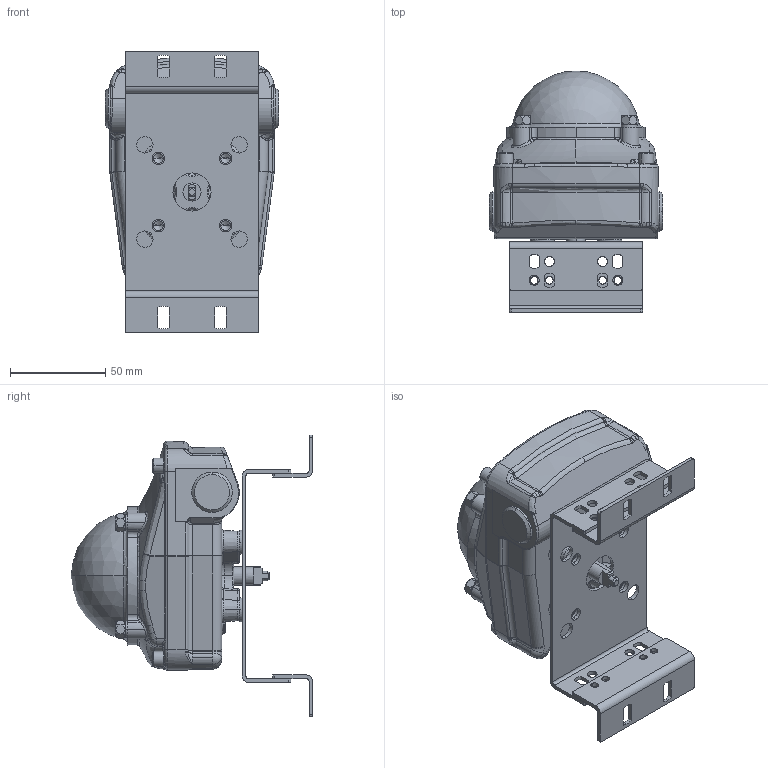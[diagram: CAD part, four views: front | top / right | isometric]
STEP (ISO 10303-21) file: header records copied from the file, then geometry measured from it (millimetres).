
FILE_DESCRIPTION (( 'STEP AP214' ), '1' );
FILE_NAME ('S5A_with_AdjustableBracket_30X130.STEP', '2018-10-12T12:57:55', ( '' ), ( '' ), 'SwSTEP 2.0', 'SolidWorks 2018', '' );
FILE_SCHEMA (( 'AUTOMOTIVE_DESIGN' ));
Length unit declared in the file: millimetre
Products named in the file (3): S5A_with_AdjustableBracket_30X130; Adjustable Bracket 30X130Simple; S5A_8_Simple
Assembly tree (2 placements, depth 2):
  S5A_with_AdjustableBracket_30X130
    S5A_8_Simple
    Adjustable Bracket 30X130Simple
Bounding box: 91.06 x 127.06 x 148 mm (x, y, z)
Volume: 521688.6 mm3; surface area: 75492.7 mm2
Topology: 4 solids, 4 shells, 825 faces, 2058 edges, 1234 vertices
Faces by surface type: cylinder 266, plane 172, bspline 169, cone 103, torus 99, sphere 16
Entity records: 38739 total; most frequent: CARTESIAN_POINT 12642, ORIENTED_EDGE 4068, DIRECTION 3731, EDGE_CURVE 2034, AXIS2_PLACEMENT_3D 1558, VERTEX_POINT 1234, EDGE_LOOP 916, CIRCLE 897
